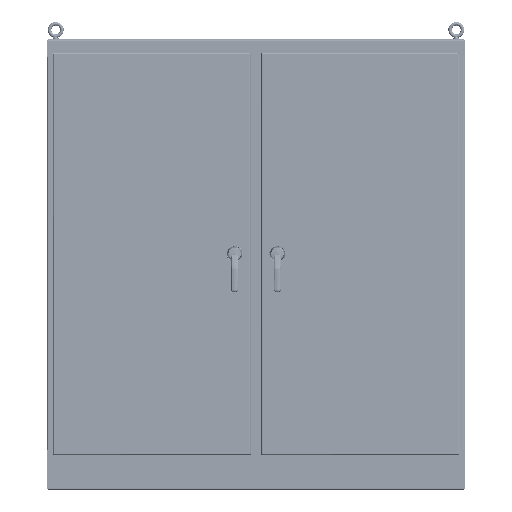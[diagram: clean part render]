
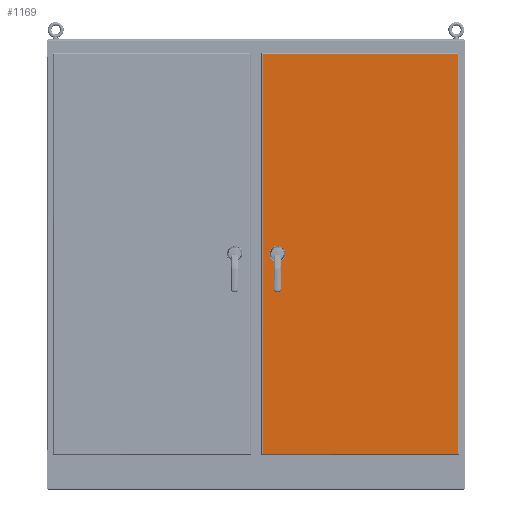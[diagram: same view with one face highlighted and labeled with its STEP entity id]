
A CAD part, top view. The second image highlights one B-rep face of the part: STEP entity #1169.
In plain terms, the highlighted planar face has unit normal (0, 0, 1).
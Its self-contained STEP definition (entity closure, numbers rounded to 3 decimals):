
#1169 = ADVANCED_FACE ( 'NONE', ( #197007, #197044, #197051, #197058 ), #72401, .F. ) ;
#29024 = CARTESIAN_POINT ( 'NONE',  ( -15.172, 0., 0.12 ) ) ;
#29039 = CARTESIAN_POINT ( 'NONE',  ( -14.688, 0., 0.12 ) ) ;
#46184 = AXIS2_PLACEMENT_3D ( 'NONE', #146814, #146819, #146822 ) ;
#46188 = AXIS2_PLACEMENT_3D ( 'NONE', #146861, #146866, #146869 ) ;
#46193 = AXIS2_PLACEMENT_3D ( 'NONE', #146835, #146901, #146904 ) ;
#46238 = AXIS2_PLACEMENT_3D ( 'NONE', #147490, #147499, #147500 ) ;
#46242 = AXIS2_PLACEMENT_3D ( 'NONE', #147492, #147497, #147498 ) ;
#46243 = AXIS2_PLACEMENT_3D ( 'NONE', #147496, #147502, #147503 ) ;
#72401 = PLANE ( 'NONE',  #101731 ) ;
#72402 = CARTESIAN_POINT ( 'NONE',  ( -18.454, 37.527, 0.12 ) ) ;
#72403 = DIRECTION ( 'NONE',  ( 0., 0., -1. ) ) ;
#72404 = DIRECTION ( 'NONE',  ( -1., 0., 0. ) ) ;
#101731 = AXIS2_PLACEMENT_3D ( 'NONE', #72402, #72403, #72404 ) ;
#101765 = EDGE_LOOP ( 'NONE', ( #244129, #244132 ) ) ;
#101769 = EDGE_LOOP ( 'NONE', ( #244116, #244119 ) ) ;
#108419 = CARTESIAN_POINT ( 'NONE',  ( -14.407, 0., 0.12 ) ) ;
#108482 = CARTESIAN_POINT ( 'NONE',  ( -15.735, 0., 0.12 ) ) ;
#108528 = CARTESIAN_POINT ( 'NONE',  ( -18.214, 37.287, 0.12 ) ) ;
#108776 = CARTESIAN_POINT ( 'NONE',  ( -16.219, 0., 0.12 ) ) ;
#109036 = CARTESIAN_POINT ( 'NONE',  ( 18.214, 37.287, 0.12 ) ) ;
#109281 = CARTESIAN_POINT ( 'NONE',  ( 18.214, -37.287, 0.12 ) ) ;
#109325 = CARTESIAN_POINT ( 'NONE',  ( -18.214, -37.287, 0.12 ) ) ;
#110878 = VERTEX_POINT ( 'NONE', #108419 ) ;
#110902 = VERTEX_POINT ( 'NONE', #108482 ) ;
#110920 = VERTEX_POINT ( 'NONE', #108528 ) ;
#111015 = VERTEX_POINT ( 'NONE', #108776 ) ;
#111110 = VERTEX_POINT ( 'NONE', #109036 ) ;
#111306 = VERTEX_POINT ( 'NONE', #109281 ) ;
#111343 = VERTEX_POINT ( 'NONE', #109325 ) ;
#126088 = CIRCLE ( 'NONE', #46184, 0.14 ) ;
#126129 = CIRCLE ( 'NONE', #46188, 0.14 ) ;
#126159 = CIRCLE ( 'NONE', #46193, 0.281 ) ;
#126902 = LINE ( 'NONE', #147489, #126970 ) ;
#126956 = LINE ( 'NONE', #147482, #126964 ) ;
#126964 = VECTOR ( 'NONE', #147491, 39.37 ) ;
#126970 = VECTOR ( 'NONE', #147493, 39.37 ) ;
#126978 = LINE ( 'NONE', #147494, #126983 ) ;
#126983 = VECTOR ( 'NONE', #147495, 39.37 ) ;
#126989 = LINE ( 'NONE', #147504, #127001 ) ;
#126996 = CIRCLE ( 'NONE', #46242, 0.281 ) ;
#127001 = VECTOR ( 'NONE', #147505, 39.37 ) ;
#127004 = CIRCLE ( 'NONE', #46238, 0.14 ) ;
#127011 = CIRCLE ( 'NONE', #46243, 0.14 ) ;
#145864 = VERTEX_POINT ( 'NONE', #29024 ) ;
#145900 = VERTEX_POINT ( 'NONE', #29039 ) ;
#146814 = CARTESIAN_POINT ( 'NONE',  ( -16.36, 0., 0.12 ) ) ;
#146819 = DIRECTION ( 'NONE',  ( 0., 0., 1. ) ) ;
#146822 = DIRECTION ( 'NONE',  ( 1., 0., 0. ) ) ;
#146835 = CARTESIAN_POINT ( 'NONE',  ( -15.454, 0., 0.12 ) ) ;
#146861 = CARTESIAN_POINT ( 'NONE',  ( -14.548, 0., 0.12 ) ) ;
#146866 = DIRECTION ( 'NONE',  ( 0., 0., 1. ) ) ;
#146869 = DIRECTION ( 'NONE',  ( 1., 0., 0. ) ) ;
#146901 = DIRECTION ( 'NONE',  ( 0., 0., 1. ) ) ;
#146904 = DIRECTION ( 'NONE',  ( 1., 0., 0. ) ) ;
#147482 = CARTESIAN_POINT ( 'NONE',  ( -18.454, -37.287, 0.12 ) ) ;
#147489 = CARTESIAN_POINT ( 'NONE',  ( -18.214, 37.527, 0.12 ) ) ;
#147490 = CARTESIAN_POINT ( 'NONE',  ( -16.36, 0., 0.12 ) ) ;
#147491 = DIRECTION ( 'NONE',  ( 1., 0., 0. ) ) ;
#147492 = CARTESIAN_POINT ( 'NONE',  ( -15.454, 0., 0.12 ) ) ;
#147493 = DIRECTION ( 'NONE',  ( 0., -1., 0. ) ) ;
#147494 = CARTESIAN_POINT ( 'NONE',  ( 18.214, -37.527, 0.12 ) ) ;
#147495 = DIRECTION ( 'NONE',  ( 0., 1., 0. ) ) ;
#147496 = CARTESIAN_POINT ( 'NONE',  ( -14.548, 0., 0.12 ) ) ;
#147497 = DIRECTION ( 'NONE',  ( 0., 0., 1. ) ) ;
#147498 = DIRECTION ( 'NONE',  ( 1., 0., 0. ) ) ;
#147499 = DIRECTION ( 'NONE',  ( 0., 0., 1. ) ) ;
#147500 = DIRECTION ( 'NONE',  ( 1., 0., 0. ) ) ;
#147502 = DIRECTION ( 'NONE',  ( 0., 0., 1. ) ) ;
#147503 = DIRECTION ( 'NONE',  ( 1., 0., 0. ) ) ;
#147504 = CARTESIAN_POINT ( 'NONE',  ( 393.724, 37.287, 0.12 ) ) ;
#147505 = DIRECTION ( 'NONE',  ( -1., 0., 0. ) ) ;
#187397 = EDGE_LOOP ( 'NONE', ( #244136, #244139, #244141, #244147 ) ) ;
#187403 = EDGE_LOOP ( 'NONE', ( #244123, #244125 ) ) ;
#192114 = VERTEX_POINT ( 'NONE', #222488 ) ;
#197007 = FACE_BOUND ( 'NONE', #101769, .T. ) ;
#197044 = FACE_BOUND ( 'NONE', #187403, .T. ) ;
#197051 = FACE_BOUND ( 'NONE', #101765, .T. ) ;
#197058 = FACE_OUTER_BOUND ( 'NONE', #187397, .T. ) ;
#219231 = EDGE_CURVE ( 'NONE', #192114, #111015, #126088, .T. ) ;
#219249 = EDGE_CURVE ( 'NONE', #145900, #110878, #126129, .T. ) ;
#219263 = EDGE_CURVE ( 'NONE', #110902, #145864, #126159, .T. ) ;
#219637 = EDGE_CURVE ( 'NONE', #111343, #111306, #126956, .T. ) ;
#219640 = EDGE_CURVE ( 'NONE', #110920, #111343, #126902, .T. ) ;
#219644 = EDGE_CURVE ( 'NONE', #111306, #111110, #126978, .T. ) ;
#219647 = EDGE_CURVE ( 'NONE', #145864, #110902, #126996, .T. ) ;
#219651 = EDGE_CURVE ( 'NONE', #111015, #192114, #127004, .T. ) ;
#219654 = EDGE_CURVE ( 'NONE', #110878, #145900, #127011, .T. ) ;
#219656 = EDGE_CURVE ( 'NONE', #111110, #110920, #126989, .T. ) ;
#222488 = CARTESIAN_POINT ( 'NONE',  ( -16.5, 0., 0.12 ) ) ;
#244116 = ORIENTED_EDGE ( 'NONE', *, *, #219651, .F. ) ;
#244119 = ORIENTED_EDGE ( 'NONE', *, *, #219231, .F. ) ;
#244123 = ORIENTED_EDGE ( 'NONE', *, *, #219654, .F. ) ;
#244125 = ORIENTED_EDGE ( 'NONE', *, *, #219249, .F. ) ;
#244129 = ORIENTED_EDGE ( 'NONE', *, *, #219647, .F. ) ;
#244132 = ORIENTED_EDGE ( 'NONE', *, *, #219263, .F. ) ;
#244136 = ORIENTED_EDGE ( 'NONE', *, *, #219637, .T. ) ;
#244139 = ORIENTED_EDGE ( 'NONE', *, *, #219644, .T. ) ;
#244141 = ORIENTED_EDGE ( 'NONE', *, *, #219656, .T. ) ;
#244147 = ORIENTED_EDGE ( 'NONE', *, *, #219640, .T. ) ;
